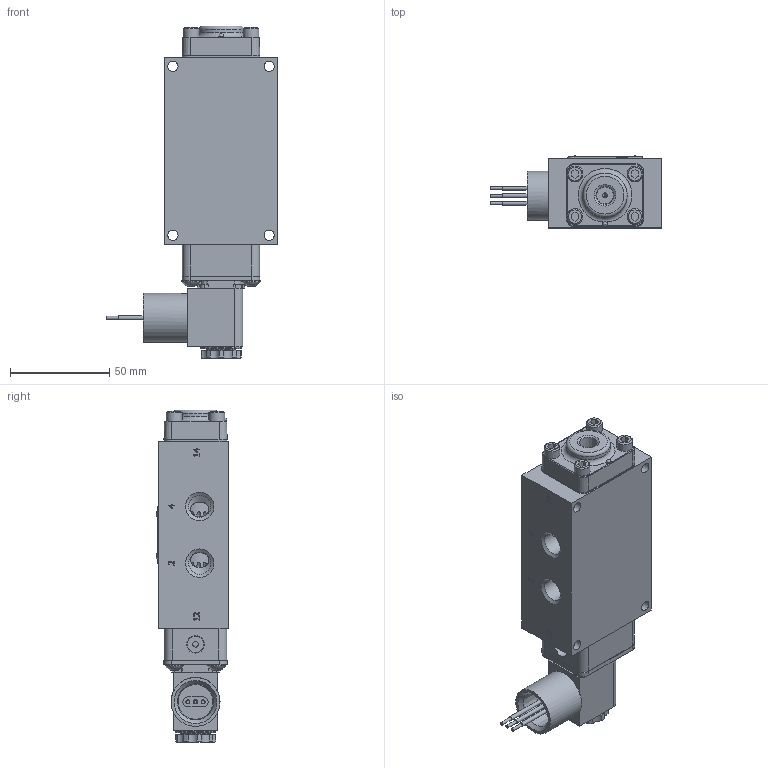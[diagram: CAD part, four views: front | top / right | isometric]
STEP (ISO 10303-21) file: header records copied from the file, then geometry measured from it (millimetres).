
FILE_DESCRIPTION(/* description */ (''),/* implementation_level */ '2;1');
FILE_NAME(/* name */ 'D:\Website Files\stp\Valves\Standard\ESR\ESR2JZ.stp',/* time_stamp */ '2016-06-03T00:35:00-04:00',/* author */ ('RMcKenna'),/* organization */ (''),/* preprocessor_version */ 'ST-DEVELOPER v15.6',/* originating_system */ 'Autodesk Inventor 2015',/* authorisation */ '');
FILE_SCHEMA (('AUTOMOTIVE_DESIGN { 1 0 10303 214 3 1 1 }'));
Products named in the file (1): Part17
Bounding box: 86.37 x 36.27 x 166.99 mm (x, y, z)
Volume: 216912.8 mm3; surface area: 71843.3 mm2
Topology: 1 solids, 30 shells, 1670 faces, 4093 edges, 2607 vertices
Faces by surface type: plane 755, cylinder 398, cone 275, torus 120, bspline 115, sphere 7
Full cylindrical faces by diameter (mm): 1.016 x1, 1.3 x1, 1.397 x1, 1.5 x2, 1.524 x3, 2.007 x2, 2.032 x7, 2.07 x2, 2.261 x2, 2.35 x4, 2.362 x2, 2.381 x2, 2.778 x2, 2.8 x1, 2.819 x1, 3 x4, 3.048 x2, 3.175 x1, 3.4 x1, 3.683 x11, 3.912 x3, 4.191 x2, 4.305 x1, 4.394 x1, 4.826 x8, 4.953 x1, 5.15 x4, 5.156 x12, 5.5 x1, 6.553 x1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
Entity records: 52346 total; most frequent: CARTESIAN_POINT 13444, DIRECTION 7565, ORIENTED_EDGE 7386, EDGE_CURVE 3691, AXIS2_PLACEMENT_3D 2875, VERTEX_POINT 2488, EDGE_LOOP 2143, LINE 1815
